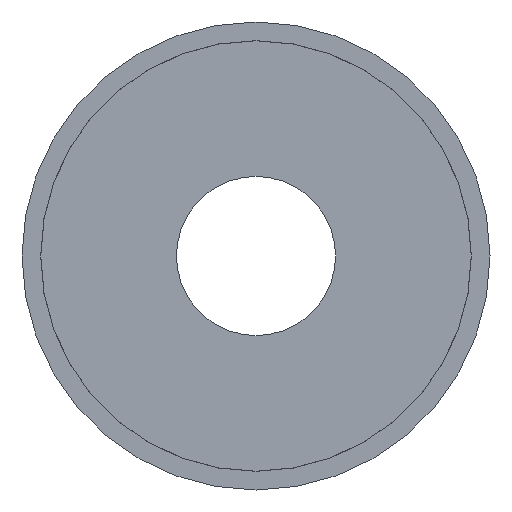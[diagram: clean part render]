
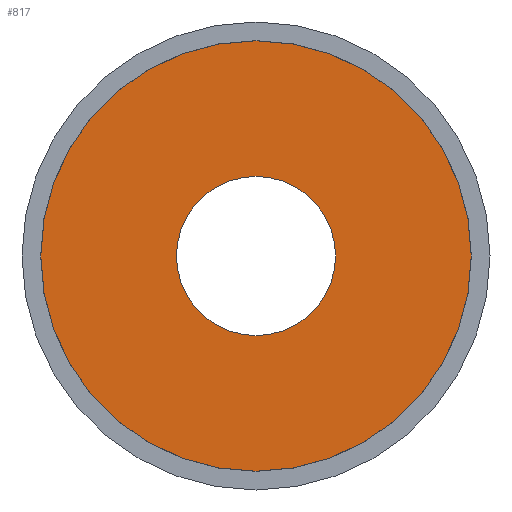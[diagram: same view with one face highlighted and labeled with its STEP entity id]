
A CAD part, front view. The second image highlights one B-rep face of the part: STEP entity #817.
In plain terms, the highlighted planar face has unit normal (0, -1, 0).
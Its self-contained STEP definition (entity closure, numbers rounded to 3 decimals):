
#47 = VERTEX_POINT ( 'NONE', #884 ) ;
#81 = DIRECTION ( 'NONE',  ( 0., 0., -1. ) ) ;
#86 = AXIS2_PLACEMENT_3D ( 'NONE', #124, #737, #585 ) ;
#107 = ORIENTED_EDGE ( 'NONE', *, *, #948, .T. ) ;
#108 = DIRECTION ( 'NONE',  ( 0., -1., 0. ) ) ;
#124 = CARTESIAN_POINT ( 'NONE',  ( 0., -10., 0. ) ) ;
#178 = CARTESIAN_POINT ( 'NONE',  ( 0., -10., 0. ) ) ;
#211 = ORIENTED_EDGE ( 'NONE', *, *, #408, .T. ) ;
#220 = DIRECTION ( 'NONE',  ( 0., -1., 0. ) ) ;
#222 = ORIENTED_EDGE ( 'NONE', *, *, #367, .T. ) ;
#244 = DIRECTION ( 'NONE',  ( 0., -1., 0. ) ) ;
#251 = ORIENTED_EDGE ( 'NONE', *, *, #890, .T. ) ;
#287 = VERTEX_POINT ( 'NONE', #580 ) ;
#331 = CARTESIAN_POINT ( 'NONE',  ( 0., -10., 8.5 ) ) ;
#343 = AXIS2_PLACEMENT_3D ( 'NONE', #461, #244, #539 ) ;
#367 = EDGE_CURVE ( 'NONE', #641, #287, #510, .T. ) ;
#408 = EDGE_CURVE ( 'NONE', #709, #47, #796, .T. ) ;
#415 = EDGE_LOOP ( 'NONE', ( #211, #107 ) ) ;
#461 = CARTESIAN_POINT ( 'NONE',  ( -25., -10., 0. ) ) ;
#465 = FACE_BOUND ( 'NONE', #538, .T. ) ;
#484 = CIRCLE ( 'NONE', #866, 8.5 ) ;
#510 = CIRCLE ( 'NONE', #86, 8.5 ) ;
#518 = CARTESIAN_POINT ( 'NONE',  ( 0., -10., -22.99 ) ) ;
#538 = EDGE_LOOP ( 'NONE', ( #222, #251 ) ) ;
#539 = DIRECTION ( 'NONE',  ( 0., 0., -1. ) ) ;
#580 = CARTESIAN_POINT ( 'NONE',  ( 0., -10., -8.5 ) ) ;
#585 = DIRECTION ( 'NONE',  ( 0., 0., 1. ) ) ;
#613 = DIRECTION ( 'NONE',  ( 0., 0., 1. ) ) ;
#641 = VERTEX_POINT ( 'NONE', #331 ) ;
#689 = PLANE ( 'NONE',  #343 ) ;
#709 = VERTEX_POINT ( 'NONE', #518 ) ;
#737 = DIRECTION ( 'NONE',  ( 0., 1., 0. ) ) ;
#738 = CIRCLE ( 'NONE', #883, 22.99 ) ;
#781 = DIRECTION ( 'NONE',  ( 0., 1., 0. ) ) ;
#787 = DIRECTION ( 'NONE',  ( 0., 0., -1. ) ) ;
#796 = CIRCLE ( 'NONE', #864, 22.99 ) ;
#817 = ADVANCED_FACE ( 'NONE', ( #465, #904 ), #689, .T. ) ;
#863 = CARTESIAN_POINT ( 'NONE',  ( 0., -10., 0. ) ) ;
#864 = AXIS2_PLACEMENT_3D ( 'NONE', #947, #220, #81 ) ;
#866 = AXIS2_PLACEMENT_3D ( 'NONE', #178, #781, #613 ) ;
#883 = AXIS2_PLACEMENT_3D ( 'NONE', #863, #108, #787 ) ;
#884 = CARTESIAN_POINT ( 'NONE',  ( 0., -10., 22.99 ) ) ;
#890 = EDGE_CURVE ( 'NONE', #287, #641, #484, .T. ) ;
#904 = FACE_OUTER_BOUND ( 'NONE', #415, .T. ) ;
#947 = CARTESIAN_POINT ( 'NONE',  ( 0., -10., 0. ) ) ;
#948 = EDGE_CURVE ( 'NONE', #47, #709, #738, .T. ) ;
